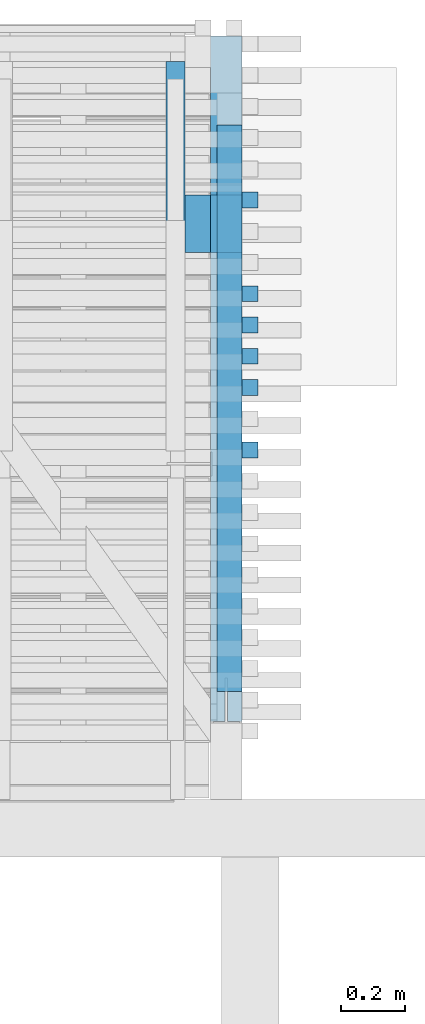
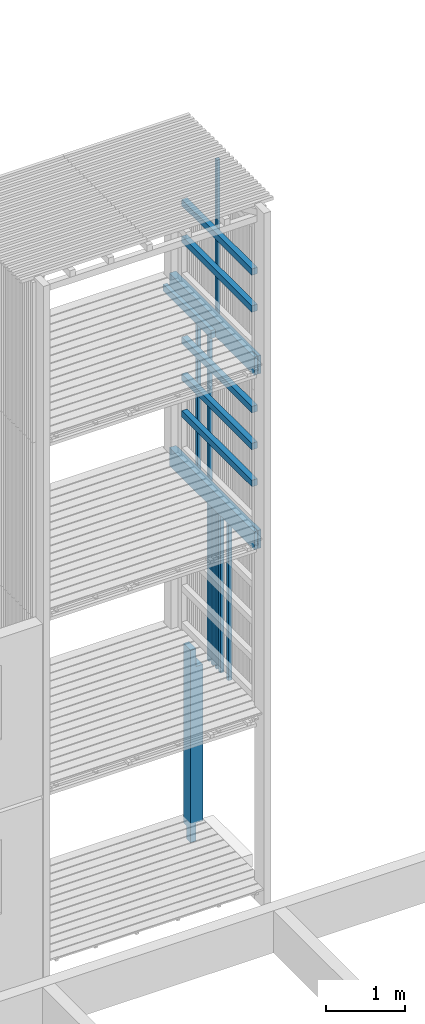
# One storey, part 80 of 182: 17 beams.
"""IFC2X3 building model written with IfcOpenShell, lengths in metres."""

from ifc_helpers import new_model, si_unit, frame, origin, place, context, project, spatial, faceted_brep, element, save


model = new_model("IFC2X3")

# Units and contexts
model_context = context("Model", 3, precision=1e-06, world=origin())
ifc_project = project(units=[si_unit("LENGTHUNIT", "METRE"), si_unit("PLANEANGLEUNIT", "RADIAN")], contexts=[model_context])

# Site, building, storey
site = spatial("IfcSite", under=ifc_project, CompositionType="ELEMENT")
building = spatial("IfcBuilding", under=site, CompositionType="ELEMENT")
storey = spatial("IfcBuildingStorey", under=building, Name="vs", CompositionType="ELEMENT", Elevation=-0.85)

# Beams
placement = place(None, origin())
beam_1_placement = place(placement, frame((26.399999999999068, 11.863259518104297, 2.575000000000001), z_axis=(-1.0, 0.0, 0.0), x_axis=(0.0, 0.0, 1.0)))
element("IfcBeam", 1, at=beam_1_placement, inside=storey, Name="Bardage", context=model_context, shape_type="Brep", body=[
    faceted_brep([(0.0, -0.024999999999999, 0.024999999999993), (0.0, 0.024999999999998, 0.024999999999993), (0.0, 0.024999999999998, -0.025000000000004), (0.0, -0.024999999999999, -0.025000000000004), (2.699961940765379, 0.024999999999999, -0.025000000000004), (2.699961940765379, 0.024999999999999, 0.024999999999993), (2.699961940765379, -0.024999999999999, 0.024999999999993), (2.699961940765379, -0.024999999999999, -0.025000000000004), (0.0, -0.024999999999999, -0.025000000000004), (0.0, 0.024999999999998, -0.025000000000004), (2.699961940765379, 0.024999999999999, -0.025000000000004), (2.699961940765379, -0.024999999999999, -0.025000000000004), (2.699961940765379, 0.024999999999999, -0.025000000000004), (0.0, 0.024999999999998, -0.025000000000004), (0.0, 0.024999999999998, 0.024999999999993), (2.699961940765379, 0.024999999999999, 0.024999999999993), (2.699961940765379, 0.024999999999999, 0.024999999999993), (0.0, 0.024999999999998, 0.024999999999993), (0.0, -0.024999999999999, 0.024999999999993), (2.699961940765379, -0.024999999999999, 0.024999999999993), (2.699961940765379, -0.024999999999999, 0.024999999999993), (0.0, -0.024999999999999, 0.024999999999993), (0.0, -0.024999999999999, -0.025000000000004), (2.699961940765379, -0.024999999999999, -0.025000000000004)], [[[0, 1, 2, 3]], [[4, 5, 6, 7]], [[8, 9, 10, 11]], [[12, 13, 14, 15]], [[16, 17, 18, 19]], [[20, 21, 22, 23]]]),
])
beam_2_placement = place(placement, frame((26.399999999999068, 12.059623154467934, 5.274999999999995), z_axis=(-1.0, 0.0, 0.0), x_axis=(0.0, 0.0, 1.0)))
element("IfcBeam", 2, at=beam_2_placement, inside=storey, Name="Bardage", context=model_context, shape_type="Brep", body=[
    faceted_brep([(1e-15, -0.025000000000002, 0.024999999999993), (1e-15, 0.024999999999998, 0.024999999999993), (1e-15, 0.024999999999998, -0.025000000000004), (1e-15, -0.025000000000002, -0.025000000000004), (2.699999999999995, -0.025000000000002, -0.025000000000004), (2.699999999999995, 0.024999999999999, -0.025000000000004), (2.699999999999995, 0.024999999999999, 0.024999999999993), (2.699999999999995, -0.025000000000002, 0.024999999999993), (1e-15, -0.025000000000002, 0.024999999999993), (1e-15, -0.025000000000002, -0.025000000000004), (2.699999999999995, -0.025000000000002, -0.025000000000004), (2.699999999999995, -0.025000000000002, 0.024999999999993), (2.699999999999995, -0.025000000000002, -0.025000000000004), (1e-15, -0.025000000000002, -0.025000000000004), (1e-15, 0.024999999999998, -0.025000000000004), (2.699999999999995, 0.024999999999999, -0.025000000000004), (2.699999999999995, 0.024999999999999, -0.025000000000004), (1e-15, 0.024999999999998, -0.025000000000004), (1e-15, 0.024999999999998, 0.024999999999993), (2.699999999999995, 0.024999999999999, 0.024999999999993), (2.699999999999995, 0.024999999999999, 0.024999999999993), (1e-15, 0.024999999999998, 0.024999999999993), (1e-15, -0.025000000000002, 0.024999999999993), (2.699999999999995, -0.025000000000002, 0.024999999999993)], [[[0, 1, 2, 3]], [[4, 5, 6, 7]], [[8, 9, 10, 11]], [[12, 13, 14, 15]], [[16, 17, 18, 19]], [[20, 21, 22, 23]]]),
])
beam_3_placement = place(placement, frame((26.399999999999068, 11.863259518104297, 7.974999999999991), z_axis=(-1.0, 0.0, 0.0), x_axis=(0.0, 0.0, 1.0)))
element("IfcBeam", 3, at=beam_3_placement, inside=storey, Name="Bardage", context=model_context, shape_type="Brep", body=[
    faceted_brep([(2.479999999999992, -0.024999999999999, 0.024999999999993), (2.479999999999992, -0.024999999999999, -0.025000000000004), (2.479999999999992, 0.024999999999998, -0.025000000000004), (2.479999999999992, 0.024999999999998, 0.024999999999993), (0.0, 0.024999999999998, 0.024999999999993), (0.0, -0.024999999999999, 0.024999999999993), (2.479999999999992, -0.024999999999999, 0.024999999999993), (2.479999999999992, 0.024999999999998, 0.024999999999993), (0.0, -0.024999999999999, 0.024999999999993), (0.0, 0.024999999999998, 0.024999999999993), (0.0, 0.024999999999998, -0.025000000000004), (0.0, -0.024999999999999, -0.025000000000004), (0.0, 0.024999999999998, -0.025000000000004), (0.0, 0.024999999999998, 0.024999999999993), (2.479999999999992, 0.024999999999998, 0.024999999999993), (2.479999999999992, 0.024999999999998, -0.025000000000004), (0.0, -0.024999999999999, -0.025000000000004), (0.0, 0.024999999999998, -0.025000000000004), (2.479999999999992, 0.024999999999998, -0.025000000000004), (2.479999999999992, -0.024999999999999, -0.025000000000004), (2.479999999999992, -0.024999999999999, 0.024999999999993), (0.0, -0.024999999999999, 0.024999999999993), (0.0, -0.024999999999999, -0.025000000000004), (2.479999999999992, -0.024999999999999, -0.025000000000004)], [[[0, 1, 2, 3]], [[4, 5, 6, 7]], [[8, 9, 10, 11]], [[12, 13, 14, 15]], [[16, 17, 18, 19]], [[20, 21, 22, 23]]]),
])
beam_4_placement = place(placement, frame((26.334999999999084, 10.8100776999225, 6.101249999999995), z_axis=(0.0, 0.0, 1.0), x_axis=(0.0, 1.0, 0.0)))
element("IfcBeam", 4, at=beam_4_placement, inside=storey, Name="Support bardage", context=model_context, shape_type="Brep", body=[
    faceted_brep([(1.779999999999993, -0.039999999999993, 0.050000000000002), (1.779999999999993, -0.039999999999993, -0.05), (1.779999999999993, 0.04000000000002, -0.05), (1.779999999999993, 0.04000000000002, 0.050000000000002), (-4e-15, -0.039999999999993, -0.05), (1.779999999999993, -0.039999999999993, -0.05), (1.779999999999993, -0.039999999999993, 0.050000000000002), (-4e-15, -0.039999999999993, 0.050000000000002), (-4e-15, 0.04000000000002, -0.05), (1.779999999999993, 0.04000000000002, -0.05), (1.779999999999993, -0.039999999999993, -0.05), (-4e-15, -0.039999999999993, -0.05), (-4e-15, 0.04000000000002, 0.050000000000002), (1.779999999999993, 0.04000000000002, 0.050000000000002), (1.779999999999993, 0.04000000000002, -0.05), (-4e-15, 0.04000000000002, -0.05), (-4e-15, -0.039999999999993, 0.050000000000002), (1.779999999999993, -0.039999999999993, 0.050000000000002), (1.779999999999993, 0.04000000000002, 0.050000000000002), (-4e-15, 0.04000000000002, 0.050000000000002), (-4e-15, -0.039999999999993, -0.05), (-4e-15, -0.039999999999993, 0.050000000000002), (-4e-15, 0.04000000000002, 0.050000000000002), (-4e-15, 0.04000000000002, -0.05)], [[[0, 1, 2, 3]], [[4, 5, 6, 7]], [[8, 9, 10, 11]], [[12, 13, 14, 15]], [[16, 17, 18, 19]], [[20, 21, 22, 23]]]),
])
beam_5_placement = place(placement, frame((26.324999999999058, 10.715077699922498, 5.279999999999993), z_axis=(0.0, 0.0, 1.0), x_axis=(0.0, 1.0, 0.0)))
element("IfcBeam", 5, at=beam_5_placement, inside=storey, Name="Sommier", context=model_context, shape_type="Brep", body=[
    faceted_brep([(2.154999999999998, -0.050000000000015, -0.140000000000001), (2.154999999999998, -0.050000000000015, 0.140000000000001), (0.0, -0.050000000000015, 0.140000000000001), (0.0, -0.050000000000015, -0.140000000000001), (-4e-15, -0.004000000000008, 0.140000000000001), (0.0, -0.050000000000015, 0.140000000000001), (2.154999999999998, -0.050000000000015, 0.140000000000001), (2.154999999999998, 0.049999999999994, 0.140000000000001), (0.0, 0.049999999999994, 0.140000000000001), (-4e-15, 0.003999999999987, 0.140000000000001), (0.136999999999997, 0.003999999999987, 0.140000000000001), (0.136999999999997, -0.004000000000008, 0.140000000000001), (2.154999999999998, 0.049999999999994, 0.140000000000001), (2.154999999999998, -0.050000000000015, 0.140000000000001), (2.154999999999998, -0.050000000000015, -0.140000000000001), (2.154999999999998, 0.049999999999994, -0.140000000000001), (0.847999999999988, 0.044999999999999, -0.140000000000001), (0.771999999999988, 0.044999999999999, -0.140000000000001), (0.771999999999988, 0.044999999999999, 0.034999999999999), (0.847999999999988, 0.044999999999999, 0.034999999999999), (0.847999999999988, 0.044999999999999, 0.034999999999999), (0.771999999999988, 0.044999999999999, 0.034999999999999), (0.771999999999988, 0.049999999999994, 0.034999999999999), (0.847999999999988, 0.049999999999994, 0.034999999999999), (0.847999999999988, 0.049999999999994, -0.140000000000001), (0.847999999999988, 0.044999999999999, -0.140000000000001), (0.847999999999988, 0.044999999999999, 0.034999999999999), (0.847999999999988, 0.049999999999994, 0.034999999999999), (0.771999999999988, 0.044999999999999, 0.034999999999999), (0.771999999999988, 0.044999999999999, -0.140000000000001), (0.771999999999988, 0.049999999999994, -0.140000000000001), (0.771999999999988, 0.049999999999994, 0.034999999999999), (0.0, 0.049999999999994, 0.140000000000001), (2.154999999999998, 0.049999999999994, 0.140000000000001), (2.154999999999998, 0.049999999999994, -0.140000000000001), (0.847999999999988, 0.049999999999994, -0.140000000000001), (0.847999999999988, 0.049999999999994, 0.034999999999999), (0.771999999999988, 0.049999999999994, 0.034999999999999), (0.771999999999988, 0.049999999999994, -0.140000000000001), (0.0, 0.049999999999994, -0.140000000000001), (0.0, 0.003999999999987, -0.140000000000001), (-4e-15, 0.003999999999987, 0.140000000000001), (0.0, 0.049999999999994, 0.140000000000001), (0.0, 0.049999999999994, -0.140000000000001), (0.0, -0.050000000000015, 0.140000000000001), (-4e-15, -0.004000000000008, 0.140000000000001), (0.0, -0.004000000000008, -0.140000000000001), (0.0, -0.050000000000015, -0.140000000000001), (0.0, 0.049999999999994, -0.140000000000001), (0.771999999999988, 0.049999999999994, -0.140000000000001), (0.771999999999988, 0.044999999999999, -0.140000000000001), (0.847999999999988, 0.044999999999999, -0.140000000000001), (0.847999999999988, 0.049999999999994, -0.140000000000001), (2.154999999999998, 0.049999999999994, -0.140000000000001), (2.154999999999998, -0.050000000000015, -0.140000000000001), (0.0, -0.050000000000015, -0.140000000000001), (0.0, -0.004000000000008, -0.140000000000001), (0.136999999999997, -0.004000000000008, -0.140000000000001), (0.136999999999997, 0.003999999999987, -0.140000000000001), (0.0, 0.003999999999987, -0.140000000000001), (0.136999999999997, 0.003999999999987, -0.140000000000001), (0.136999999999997, -0.004000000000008, -0.140000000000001), (0.136999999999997, -0.004000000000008, 0.140000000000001), (0.136999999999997, 0.003999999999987, 0.140000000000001), (-4e-15, -0.004000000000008, 0.140000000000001), (0.136999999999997, -0.004000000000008, 0.140000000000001), (0.136999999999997, -0.004000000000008, -0.140000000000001), (0.0, -0.004000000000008, -0.140000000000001), (0.136999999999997, 0.003999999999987, 0.140000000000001), (-4e-15, 0.003999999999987, 0.140000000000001), (0.0, 0.003999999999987, -0.140000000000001), (0.136999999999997, 0.003999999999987, -0.140000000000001)], [[[0, 1, 2, 3]], [[4, 5, 6, 7, 8, 9, 10, 11]], [[12, 13, 14, 15]], [[16, 17, 18, 19]], [[20, 21, 22, 23]], [[24, 25, 26, 27]], [[28, 29, 30, 31]], [[32, 33, 34, 35, 36, 37, 38, 39]], [[40, 41, 42, 43]], [[44, 45, 46, 47]], [[48, 49, 50, 51, 52, 53, 54, 55, 56, 57, 58, 59]], [[60, 61, 62, 63]], [[64, 65, 66, 67]], [[68, 69, 70, 71]]]),
])
beam_6_placement = place(placement, frame((26.334999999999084, 10.8100776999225, 8.80124999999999), z_axis=(0.0, 0.0, 1.0), x_axis=(0.0, 1.0, 0.0)))
element("IfcBeam", 6, at=beam_6_placement, inside=storey, Name="Support bardage", context=model_context, shape_type="Brep", body=[
    faceted_brep([(1.779999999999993, -0.039999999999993, 0.050000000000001), (1.779999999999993, -0.039999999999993, -0.050000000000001), (1.779999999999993, 0.04000000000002, -0.050000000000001), (1.779999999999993, 0.04000000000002, 0.050000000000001), (-4e-15, -0.039999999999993, -0.050000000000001), (1.779999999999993, -0.039999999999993, -0.050000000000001), (1.779999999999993, -0.039999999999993, 0.050000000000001), (-4e-15, -0.039999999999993, 0.050000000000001), (-4e-15, 0.04000000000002, -0.050000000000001), (1.779999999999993, 0.04000000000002, -0.050000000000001), (1.779999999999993, -0.039999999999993, -0.050000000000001), (-4e-15, -0.039999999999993, -0.050000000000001), (-4e-15, 0.04000000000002, 0.050000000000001), (1.779999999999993, 0.04000000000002, 0.050000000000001), (1.779999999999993, 0.04000000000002, -0.050000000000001), (-4e-15, 0.04000000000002, -0.050000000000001), (-4e-15, -0.039999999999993, 0.050000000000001), (1.779999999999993, -0.039999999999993, 0.050000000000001), (1.779999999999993, 0.04000000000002, 0.050000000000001), (-4e-15, 0.04000000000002, 0.050000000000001), (-4e-15, -0.039999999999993, -0.050000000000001), (-4e-15, -0.039999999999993, 0.050000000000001), (-4e-15, 0.04000000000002, 0.050000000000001), (-4e-15, 0.04000000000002, -0.050000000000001)], [[[0, 1, 2, 3]], [[4, 5, 6, 7]], [[8, 9, 10, 11]], [[12, 13, 14, 15]], [[16, 17, 18, 19]], [[20, 21, 22, 23]]]),
])
beam_7_placement = place(placement, frame((26.324999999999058, 10.715077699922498, 7.979999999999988), z_axis=(0.0, 0.0, 1.0), x_axis=(0.0, 1.0, 0.0)))
element("IfcBeam", 7, at=beam_7_placement, inside=storey, Name="Sommier", context=model_context, shape_type="Brep", body=[
    faceted_brep([(2.154999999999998, -0.050000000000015, -0.14), (2.154999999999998, -0.050000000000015, 0.140000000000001), (0.0, -0.050000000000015, 0.140000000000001), (0.0, -0.050000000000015, -0.14), (-4e-15, -0.004000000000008, 0.140000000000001), (0.0, -0.050000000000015, 0.140000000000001), (2.154999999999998, -0.050000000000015, 0.140000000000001), (2.154999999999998, 0.049999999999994, 0.140000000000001), (0.0, 0.049999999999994, 0.140000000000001), (-4e-15, 0.003999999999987, 0.140000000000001), (0.136999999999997, 0.003999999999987, 0.140000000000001), (0.136999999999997, -0.004000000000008, 0.140000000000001), (2.154999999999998, 0.049999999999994, 0.140000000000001), (2.154999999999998, -0.050000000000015, 0.140000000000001), (2.154999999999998, -0.050000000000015, -0.14), (2.154999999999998, 0.049999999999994, -0.14), (0.847999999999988, 0.044999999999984, -0.14), (0.771999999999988, 0.044999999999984, -0.14), (0.771999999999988, 0.044999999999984, 0.035000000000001), (0.847999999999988, 0.044999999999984, 0.035000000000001), (0.847999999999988, 0.044999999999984, 0.035000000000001), (0.771999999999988, 0.044999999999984, 0.035000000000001), (0.771999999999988, 0.049999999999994, 0.035000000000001), (0.847999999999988, 0.049999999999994, 0.035000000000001), (0.847999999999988, 0.049999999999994, -0.14), (0.847999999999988, 0.044999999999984, -0.14), (0.847999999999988, 0.044999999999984, 0.035000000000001), (0.847999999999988, 0.049999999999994, 0.035000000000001), (0.771999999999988, 0.044999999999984, 0.035000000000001), (0.771999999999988, 0.044999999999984, -0.14), (0.771999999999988, 0.049999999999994, -0.14), (0.771999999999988, 0.049999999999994, 0.035000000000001), (0.0, 0.049999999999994, 0.140000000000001), (2.154999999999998, 0.049999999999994, 0.140000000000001), (2.154999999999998, 0.049999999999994, -0.14), (0.847999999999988, 0.049999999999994, -0.14), (0.847999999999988, 0.049999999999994, 0.035000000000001), (0.771999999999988, 0.049999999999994, 0.035000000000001), (0.771999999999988, 0.049999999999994, -0.14), (0.0, 0.049999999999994, -0.14), (0.0, 0.003999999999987, -0.14), (-4e-15, 0.003999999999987, 0.140000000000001), (0.0, 0.049999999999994, 0.140000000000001), (0.0, 0.049999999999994, -0.14), (0.0, -0.050000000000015, 0.140000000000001), (-4e-15, -0.004000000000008, 0.140000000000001), (0.0, -0.004000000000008, -0.14), (0.0, -0.050000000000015, -0.14), (0.0, 0.049999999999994, -0.14), (0.771999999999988, 0.049999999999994, -0.14), (0.771999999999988, 0.044999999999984, -0.14), (0.847999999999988, 0.044999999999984, -0.14), (0.847999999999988, 0.049999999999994, -0.14), (2.154999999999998, 0.049999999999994, -0.14), (2.154999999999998, -0.050000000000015, -0.14), (0.0, -0.050000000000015, -0.14), (0.0, -0.004000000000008, -0.14), (0.136999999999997, -0.004000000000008, -0.14), (0.136999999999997, 0.003999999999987, -0.14), (0.0, 0.003999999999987, -0.14), (0.136999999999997, 0.003999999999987, -0.14), (0.136999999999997, -0.004000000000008, -0.14), (0.136999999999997, -0.004000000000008, 0.140000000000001), (0.136999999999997, 0.003999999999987, 0.140000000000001), (-4e-15, -0.004000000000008, 0.140000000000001), (0.136999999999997, -0.004000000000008, 0.140000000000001), (0.136999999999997, -0.004000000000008, -0.14), (0.0, -0.004000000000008, -0.14), (0.136999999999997, 0.003999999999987, 0.140000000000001), (-4e-15, 0.003999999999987, 0.140000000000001), (0.0, 0.003999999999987, -0.14), (0.136999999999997, 0.003999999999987, -0.14)], [[[0, 1, 2, 3]], [[4, 5, 6, 7, 8, 9, 10, 11]], [[12, 13, 14, 15]], [[16, 17, 18, 19]], [[20, 21, 22, 23]], [[24, 25, 26, 27]], [[28, 29, 30, 31]], [[32, 33, 34, 35, 36, 37, 38, 39]], [[40, 41, 42, 43]], [[44, 45, 46, 47]], [[48, 49, 50, 51, 52, 53, 54, 55, 56, 57, 58, 59]], [[60, 61, 62, 63]], [[64, 65, 66, 67]], [[68, 69, 70, 71]]]),
])
beam_8_placement = place(placement, frame((26.164999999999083, 11.565077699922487, 8.00424999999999), z_axis=(0.0, 0.0, 1.0), x_axis=(-1.2e-14, 1.0, 0.0)))
element("IfcBeam", 8, at=beam_8_placement, inside=storey, Name="Solive", context=model_context, shape_type="Brep", body=[
    faceted_brep([(-1e-15, -0.029999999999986, 0.061850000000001), (-1e-15, -0.029999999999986, -0.061849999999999), (1.225000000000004, -0.03, -0.061849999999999), (1.225000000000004, -0.03, 0.037349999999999), (-1e-15, -0.029999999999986, -0.061849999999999), (-1e-15, -0.029999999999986, 0.061850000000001), (0.0, 0.030000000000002, 0.061849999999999), (0.0, 0.030000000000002, -0.061849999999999), (1.225000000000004, -0.03, -0.061849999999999), (-1e-15, -0.029999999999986, -0.061849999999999), (0.0, 0.030000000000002, -0.061849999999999), (1.225000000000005, 0.029999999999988, -0.061849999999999), (1.225000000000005, 0.029999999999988, 0.037349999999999), (1.225000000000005, 0.029999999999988, -0.061849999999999), (0.0, 0.030000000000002, -0.061849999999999), (0.0, 0.030000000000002, 0.061849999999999), (1.225000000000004, -0.03, 0.037349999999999), (1.225000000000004, -0.03, -0.061849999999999), (1.225000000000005, 0.029999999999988, -0.061849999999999), (1.225000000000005, 0.029999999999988, 0.037349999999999), (1.225000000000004, -0.03, 0.037349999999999), (1.225000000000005, 0.029999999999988, 0.037349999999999), (0.0, 0.030000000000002, 0.061849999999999), (-1e-15, -0.029999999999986, 0.061850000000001)], [[[0, 1, 2, 3]], [[4, 5, 6, 7]], [[8, 9, 10, 11]], [[12, 13, 14, 15]], [[16, 17, 18, 19]], [[20, 21, 22, 23]]]),
])
beam_9_placement = place(placement, frame((26.284999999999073, 12.280077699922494, -0.26), z_axis=(0.0, -1.0, 0.0), x_axis=(0.0, 0.0, 1.0)))
element("IfcBeam", 9, at=beam_9_placement, inside=storey, Name="Poteau", context=model_context, shape_type="Brep", body=[
    faceted_brep([(2.699999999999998, -0.09, -0.09), (2.699999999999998, -0.09, 0.09), (0.28, -0.09, 0.09), (0.280000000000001, -0.09, -0.09), (0.0, 0.090000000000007, 0.09), (0.0, 0.090000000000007, -0.009999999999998), (0.0, 0.010000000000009, -0.009999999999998), (0.0, 0.010000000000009, 0.09), (0.280000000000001, -0.09, -0.09), (0.28, -0.09, 0.09), (0.28, 0.010000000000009, 0.09), (0.28, 0.010000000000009, -0.09), (0.200000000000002, 0.090000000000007, -0.09), (0.200000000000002, 0.010000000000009, -0.09), (0.200000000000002, 0.010000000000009, -0.009999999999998), (0.200000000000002, 0.090000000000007, -0.009999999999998), (0.200000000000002, 0.090000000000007, -0.009999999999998), (0.200000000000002, 0.010000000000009, -0.009999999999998), (0.0, 0.010000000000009, -0.009999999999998), (0.0, 0.090000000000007, -0.009999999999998), (0.0, 0.010000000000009, -0.009999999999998), (0.200000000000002, 0.010000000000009, -0.009999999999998), (0.200000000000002, 0.010000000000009, -0.09), (0.28, 0.010000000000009, -0.09), (0.28, 0.010000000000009, 0.09), (0.0, 0.010000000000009, 0.09), (2.979999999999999, 0.010000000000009, -0.09), (2.699999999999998, 0.010000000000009, -0.09), (2.699999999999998, -0.09, -0.09), (0.280000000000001, -0.09, -0.09), (0.28, 0.010000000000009, -0.09), (0.200000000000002, 0.010000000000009, -0.09), (0.200000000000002, 0.090000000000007, -0.09), (2.979999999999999, 0.090000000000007, -0.09), (2.979999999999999, 0.090000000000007, -0.09), (0.200000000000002, 0.090000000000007, -0.09), (0.200000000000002, 0.090000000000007, -0.009999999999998), (0.0, 0.090000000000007, -0.009999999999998), (0.0, 0.090000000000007, 0.09), (2.979999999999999, 0.090000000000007, 0.09), (2.699999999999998, 0.010000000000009, 0.09), (2.979999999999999, 0.010000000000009, 0.09), (2.979999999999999, 0.090000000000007, 0.09), (0.0, 0.090000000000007, 0.09), (0.0, 0.010000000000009, 0.09), (0.28, 0.010000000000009, 0.09), (0.28, -0.09, 0.09), (2.699999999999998, -0.09, 0.09), (2.979999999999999, 0.090000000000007, -0.09), (2.979999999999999, 0.090000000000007, 0.09), (2.979999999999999, 0.010000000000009, 0.09), (2.979999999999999, 0.010000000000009, -0.09), (2.979999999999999, 0.010000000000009, -0.09), (2.979999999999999, 0.010000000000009, 0.09), (2.699999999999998, 0.010000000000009, 0.09), (2.699999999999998, 0.010000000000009, -0.09), (2.699999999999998, 0.010000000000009, -0.09), (2.699999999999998, 0.010000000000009, 0.09), (2.699999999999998, -0.09, 0.09), (2.699999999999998, -0.09, -0.09)], [[[0, 1, 2, 3]], [[4, 5, 6, 7]], [[8, 9, 10, 11]], [[12, 13, 14, 15]], [[16, 17, 18, 19]], [[20, 21, 22, 23, 24, 25]], [[26, 27, 28, 29, 30, 31, 32, 33]], [[34, 35, 36, 37, 38, 39]], [[40, 41, 42, 43, 44, 45, 46, 47]], [[48, 49, 50, 51]], [[52, 53, 54, 55]], [[56, 57, 58, 59]]]),
])
beam_10_placement = place(placement, frame((26.334999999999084, 10.8100776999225, 9.37249999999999), z_axis=(0.0, 0.0, 1.0), x_axis=(0.0, 1.0, 0.0)))
element("IfcBeam", 10, at=beam_10_placement, inside=storey, Name="Support bardage", context=model_context, shape_type="Brep", body=[
    faceted_brep([(1.779999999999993, -0.039999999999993, 0.050000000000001), (1.779999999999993, -0.039999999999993, -0.050000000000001), (1.779999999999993, 0.04000000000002, -0.050000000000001), (1.779999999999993, 0.04000000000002, 0.050000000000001), (-4e-15, -0.039999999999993, -0.050000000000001), (1.779999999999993, -0.039999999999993, -0.050000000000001), (1.779999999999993, -0.039999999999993, 0.050000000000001), (-4e-15, -0.039999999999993, 0.050000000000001), (-4e-15, 0.04000000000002, -0.050000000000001), (1.779999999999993, 0.04000000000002, -0.050000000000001), (1.779999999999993, -0.039999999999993, -0.050000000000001), (-4e-15, -0.039999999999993, -0.050000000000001), (-4e-15, 0.04000000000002, 0.050000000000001), (1.779999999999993, 0.04000000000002, 0.050000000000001), (1.779999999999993, 0.04000000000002, -0.050000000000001), (-4e-15, 0.04000000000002, -0.050000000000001), (-4e-15, -0.039999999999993, 0.050000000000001), (1.779999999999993, -0.039999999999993, 0.050000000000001), (1.779999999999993, 0.04000000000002, 0.050000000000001), (-4e-15, 0.04000000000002, 0.050000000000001), (-4e-15, -0.039999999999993, -0.050000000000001), (-4e-15, -0.039999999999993, 0.050000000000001), (-4e-15, 0.04000000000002, 0.050000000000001), (-4e-15, 0.04000000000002, -0.050000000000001)], [[[0, 1, 2, 3]], [[4, 5, 6, 7]], [[8, 9, 10, 11]], [[12, 13, 14, 15]], [[16, 17, 18, 19]], [[20, 21, 22, 23]]]),
])
beam_11_placement = place(placement, frame((26.399999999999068, 11.961441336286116, 2.575000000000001), z_axis=(-1.0, 0.0, 0.0), x_axis=(0.0, 0.0, 1.0)))
element("IfcBeam", 11, at=beam_11_placement, inside=storey, Name="Bardage", context=model_context, shape_type="Brep", body=[
    faceted_brep([(0.0, -0.025000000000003, 0.024999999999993), (0.0, 0.024999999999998, 0.024999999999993), (0.0, 0.024999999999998, -0.025000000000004), (0.0, -0.025000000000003, -0.025000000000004), (2.699961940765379, 0.024999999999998, -0.025000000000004), (2.699961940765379, 0.024999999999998, 0.024999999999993), (2.699961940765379, -0.025000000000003, 0.024999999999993), (2.699961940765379, -0.025000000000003, -0.025000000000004), (0.0, -0.025000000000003, -0.025000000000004), (0.0, 0.024999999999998, -0.025000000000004), (2.699961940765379, 0.024999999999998, -0.025000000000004), (2.699961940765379, -0.025000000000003, -0.025000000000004), (2.699961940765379, 0.024999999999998, -0.025000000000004), (0.0, 0.024999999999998, -0.025000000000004), (0.0, 0.024999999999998, 0.024999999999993), (2.699961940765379, 0.024999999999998, 0.024999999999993), (2.699961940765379, 0.024999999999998, 0.024999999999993), (0.0, 0.024999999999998, 0.024999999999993), (0.0, -0.025000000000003, 0.024999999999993), (2.699961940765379, -0.025000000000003, 0.024999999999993), (2.699961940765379, -0.025000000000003, 0.024999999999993), (0.0, -0.025000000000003, 0.024999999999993), (0.0, -0.025000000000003, -0.025000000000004), (2.699961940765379, -0.025000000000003, -0.025000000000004)], [[[0, 1, 2, 3]], [[4, 5, 6, 7]], [[8, 9, 10, 11]], [[12, 13, 14, 15]], [[16, 17, 18, 19]], [[20, 21, 22, 23]]]),
])
beam_12_placement = place(placement, frame((26.334999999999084, 10.8100776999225, 7.24374999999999), z_axis=(0.0, 0.0, 1.0), x_axis=(0.0, 1.0, 0.0)))
element("IfcBeam", 12, at=beam_12_placement, inside=storey, Name="Support bardage", context=model_context, shape_type="Brep", body=[
    faceted_brep([(1.779999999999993, -0.039999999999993, 0.050000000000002), (1.779999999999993, -0.039999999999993, -0.049999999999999), (1.779999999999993, 0.04000000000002, -0.049999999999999), (1.779999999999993, 0.04000000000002, 0.050000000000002), (-4e-15, -0.039999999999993, -0.049999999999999), (1.779999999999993, -0.039999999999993, -0.049999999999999), (1.779999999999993, -0.039999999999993, 0.050000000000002), (-4e-15, -0.039999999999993, 0.050000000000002), (-4e-15, 0.04000000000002, -0.049999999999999), (1.779999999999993, 0.04000000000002, -0.049999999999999), (1.779999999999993, -0.039999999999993, -0.049999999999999), (-4e-15, -0.039999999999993, -0.049999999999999), (-4e-15, 0.04000000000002, 0.050000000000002), (1.779999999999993, 0.04000000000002, 0.050000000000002), (1.779999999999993, 0.04000000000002, -0.049999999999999), (-4e-15, 0.04000000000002, -0.049999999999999), (-4e-15, -0.039999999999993, 0.050000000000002), (1.779999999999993, -0.039999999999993, 0.050000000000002), (1.779999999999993, 0.04000000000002, 0.050000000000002), (-4e-15, 0.04000000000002, 0.050000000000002), (-4e-15, -0.039999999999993, -0.049999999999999), (-4e-15, -0.039999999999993, 0.050000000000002), (-4e-15, 0.04000000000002, 0.050000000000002), (-4e-15, 0.04000000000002, -0.049999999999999)], [[[0, 1, 2, 3]], [[4, 5, 6, 7]], [[8, 9, 10, 11]], [[12, 13, 14, 15]], [[16, 17, 18, 19]], [[20, 21, 22, 23]]]),
])
for number, where, z_axis, x_axis in (
    (13, (26.399999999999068, 11.765077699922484, 2.575000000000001), (-1.0, 0.0, 0.0), (0.0, 0.0, 1.0)),
    (14, (26.399999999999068, 12.059623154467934, 2.575000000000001), (-1.0, 0.0, 0.0), (0.0, 0.0, 1.0)),
):
    element("IfcBeam", number, at=place(placement, frame(where, z_axis=z_axis, x_axis=x_axis)), inside=storey, Name="Bardage", context=model_context, shape_type="Brep", body=[
        faceted_brep([(0.0, -0.025000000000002, 0.024999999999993), (0.0, 0.024999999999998, 0.024999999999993), (0.0, 0.024999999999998, -0.025000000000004), (0.0, -0.025000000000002, -0.025000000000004), (2.699961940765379, 0.024999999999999, -0.025000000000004), (2.699961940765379, 0.024999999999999, 0.024999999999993), (2.699961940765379, -0.025000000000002, 0.024999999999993), (2.699961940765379, -0.025000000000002, -0.025000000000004), (0.0, -0.025000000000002, -0.025000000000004), (0.0, 0.024999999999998, -0.025000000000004), (2.699961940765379, 0.024999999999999, -0.025000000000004), (2.699961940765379, -0.025000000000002, -0.025000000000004), (2.699961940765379, 0.024999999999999, -0.025000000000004), (0.0, 0.024999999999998, -0.025000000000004), (0.0, 0.024999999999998, 0.024999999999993), (2.699961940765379, 0.024999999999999, 0.024999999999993), (2.699961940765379, 0.024999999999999, 0.024999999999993), (0.0, 0.024999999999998, 0.024999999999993), (0.0, -0.025000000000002, 0.024999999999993), (2.699961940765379, -0.025000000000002, 0.024999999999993), (2.699961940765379, -0.025000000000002, 0.024999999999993), (0.0, -0.025000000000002, 0.024999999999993), (0.0, -0.025000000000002, -0.025000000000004), (2.699961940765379, -0.025000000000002, -0.025000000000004)], [[[0, 1, 2, 3]], [[4, 5, 6, 7]], [[8, 9, 10, 11]], [[12, 13, 14, 15]], [[16, 17, 18, 19]], [[20, 21, 22, 23]]]),
    ])
beam_13_placement = place(placement, frame((26.399999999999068, 11.568714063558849, 2.575000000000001), z_axis=(-1.0, 0.0, 0.0), x_axis=(0.0, 0.0, 1.0)))
element("IfcBeam", 15, at=beam_13_placement, inside=storey, Name="Bardage", context=model_context, shape_type="Brep", body=[
    faceted_brep([(0.0, -0.024999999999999, 0.024999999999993), (0.0, 0.024999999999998, 0.024999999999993), (0.0, 0.024999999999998, -0.025000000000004), (0.0, -0.024999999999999, -0.025000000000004), (2.699961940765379, 0.024999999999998, -0.025000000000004), (2.699961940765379, 0.024999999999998, 0.024999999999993), (2.699961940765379, -0.024999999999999, 0.024999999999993), (2.699961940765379, -0.024999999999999, -0.025000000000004), (0.0, -0.024999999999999, -0.025000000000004), (0.0, 0.024999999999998, -0.025000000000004), (2.699961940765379, 0.024999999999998, -0.025000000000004), (2.699961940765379, -0.024999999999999, -0.025000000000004), (2.699961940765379, 0.024999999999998, -0.025000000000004), (0.0, 0.024999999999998, -0.025000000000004), (0.0, 0.024999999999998, 0.024999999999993), (2.699961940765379, 0.024999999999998, 0.024999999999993), (2.699961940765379, 0.024999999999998, 0.024999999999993), (0.0, 0.024999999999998, 0.024999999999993), (0.0, -0.024999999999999, 0.024999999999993), (2.699961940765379, -0.024999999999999, 0.024999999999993), (2.699961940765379, -0.024999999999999, 0.024999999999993), (0.0, -0.024999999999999, 0.024999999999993), (0.0, -0.024999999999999, -0.025000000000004), (2.699961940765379, -0.024999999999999, -0.025000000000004)], [[[0, 1, 2, 3]], [[4, 5, 6, 7]], [[8, 9, 10, 11]], [[12, 13, 14, 15]], [[16, 17, 18, 19]], [[20, 21, 22, 23]]]),
])
beam_14_placement = place(placement, frame((26.399999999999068, 12.354168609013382, 5.274999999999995), z_axis=(-1.0, 0.0, 0.0), x_axis=(0.0, 0.0, 1.0)))
element("IfcBeam", 16, at=beam_14_placement, inside=storey, Name="Bardage", context=model_context, shape_type="Brep", body=[
    faceted_brep([(1e-15, -0.024999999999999, 0.024999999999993), (1e-15, 0.024999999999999, 0.024999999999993), (1e-15, 0.024999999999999, -0.025000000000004), (1e-15, -0.024999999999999, -0.025000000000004), (2.699999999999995, -0.024999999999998, -0.025000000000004), (2.699999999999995, 0.024999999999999, -0.025000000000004), (2.699999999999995, 0.024999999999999, 0.024999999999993), (2.699999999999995, -0.024999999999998, 0.024999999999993), (1e-15, -0.024999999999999, 0.024999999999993), (1e-15, -0.024999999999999, -0.025000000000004), (2.699999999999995, -0.024999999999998, -0.025000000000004), (2.699999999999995, -0.024999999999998, 0.024999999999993), (2.699999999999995, -0.024999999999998, -0.025000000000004), (1e-15, -0.024999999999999, -0.025000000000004), (1e-15, 0.024999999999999, -0.025000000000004), (2.699999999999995, 0.024999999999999, -0.025000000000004), (2.699999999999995, 0.024999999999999, -0.025000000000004), (1e-15, 0.024999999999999, -0.025000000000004), (1e-15, 0.024999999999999, 0.024999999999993), (2.699999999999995, 0.024999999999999, 0.024999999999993), (2.699999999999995, 0.024999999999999, 0.024999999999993), (1e-15, 0.024999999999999, 0.024999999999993), (1e-15, -0.024999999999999, 0.024999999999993), (2.699999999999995, -0.024999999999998, 0.024999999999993)], [[[0, 1, 2, 3]], [[4, 5, 6, 7]], [[8, 9, 10, 11]], [[12, 13, 14, 15]], [[16, 17, 18, 19]], [[20, 21, 22, 23]]]),
])
beam_15_placement = place(placement, frame((26.334999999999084, 10.8100776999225, 6.672499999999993), z_axis=(0.0, 0.0, 1.0), x_axis=(0.0, 1.0, 0.0)))
element("IfcBeam", 17, at=beam_15_placement, inside=storey, Name="Support bardage", context=model_context, shape_type="Brep", body=[
    faceted_brep([(1.779999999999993, -0.039999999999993, 0.050000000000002), (1.779999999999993, -0.039999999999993, -0.05), (1.779999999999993, 0.04000000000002, -0.05), (1.779999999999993, 0.04000000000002, 0.050000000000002), (-4e-15, -0.039999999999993, -0.05), (1.779999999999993, -0.039999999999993, -0.05), (1.779999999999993, -0.039999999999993, 0.050000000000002), (-4e-15, -0.039999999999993, 0.050000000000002), (-4e-15, 0.04000000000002, -0.05), (1.779999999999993, 0.04000000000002, -0.05), (1.779999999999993, -0.039999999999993, -0.05), (-4e-15, -0.039999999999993, -0.05), (-4e-15, 0.04000000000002, 0.050000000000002), (1.779999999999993, 0.04000000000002, 0.050000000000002), (1.779999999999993, 0.04000000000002, -0.05), (-4e-15, 0.04000000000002, -0.05), (-4e-15, -0.039999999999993, 0.050000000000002), (1.779999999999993, -0.039999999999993, 0.050000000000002), (1.779999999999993, 0.04000000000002, 0.050000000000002), (-4e-15, 0.04000000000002, 0.050000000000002), (-4e-15, -0.039999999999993, -0.05), (-4e-15, -0.039999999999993, 0.050000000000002), (-4e-15, 0.04000000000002, 0.050000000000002), (-4e-15, 0.04000000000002, -0.05)], [[[0, 1, 2, 3]], [[4, 5, 6, 7]], [[8, 9, 10, 11]], [[12, 13, 14, 15]], [[16, 17, 18, 19]], [[20, 21, 22, 23]]]),
])

save(model, "model.ifc")
